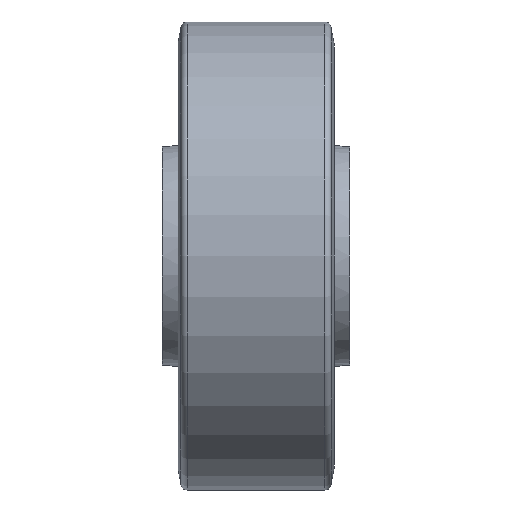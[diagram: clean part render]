
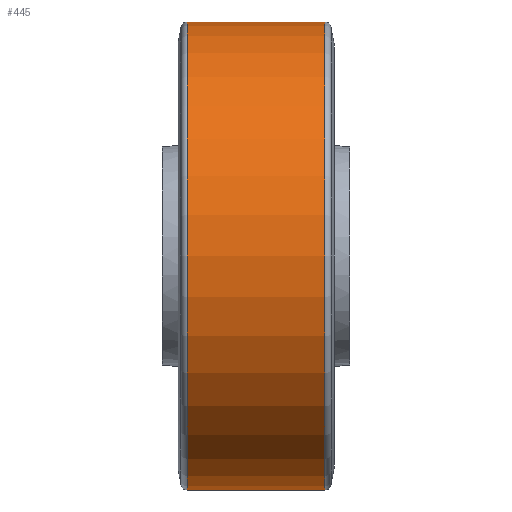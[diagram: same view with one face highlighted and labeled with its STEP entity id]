
A CAD part, front view. The second image highlights one B-rep face of the part: STEP entity #445.
In plain terms, the highlighted cylindrical face has radius 75 mm (diameter 150 mm), a partial arc.
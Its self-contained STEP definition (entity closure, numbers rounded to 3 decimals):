
#78 = DIRECTION ( 'NONE',  ( 0., 0., 1. ) ) ;
#100 = EDGE_CURVE ( 'NONE', #745, #1059, #364, .T. ) ;
#219 = CARTESIAN_POINT ( 'NONE',  ( 0., 0., 75. ) ) ;
#310 = CARTESIAN_POINT ( 'NONE',  ( 0., 0., -75. ) ) ;
#364 = CIRCLE ( 'NONE', #1453, 75. ) ;
#445 = ADVANCED_FACE ( 'NONE', ( #454 ), #1217, .T. ) ;
#448 = ORIENTED_EDGE ( 'NONE', *, *, #607, .F. ) ;
#454 = FACE_OUTER_BOUND ( 'NONE', #788, .T. ) ;
#494 = CARTESIAN_POINT ( 'NONE',  ( -22.088, 0., 75. ) ) ;
#542 = CARTESIAN_POINT ( 'NONE',  ( 0., 0., 0. ) ) ;
#580 = ORIENTED_EDGE ( 'NONE', *, *, #1477, .F. ) ;
#607 = EDGE_CURVE ( 'NONE', #636, #858, #617, .T. ) ;
#617 = CIRCLE ( 'NONE', #1182, 75. ) ;
#636 = VERTEX_POINT ( 'NONE', #1464 ) ;
#662 = DIRECTION ( 'NONE',  ( -1., 0., 0. ) ) ;
#670 = LINE ( 'NONE', #310, #984 ) ;
#701 = LINE ( 'NONE', #219, #773 ) ;
#745 = VERTEX_POINT ( 'NONE', #1185 ) ;
#773 = VECTOR ( 'NONE', #936, 1000. ) ;
#788 = EDGE_LOOP ( 'NONE', ( #580, #985, #1172, #448 ) ) ;
#858 = VERTEX_POINT ( 'NONE', #494 ) ;
#859 = CARTESIAN_POINT ( 'NONE',  ( 22.088, 0., 75. ) ) ;
#936 = DIRECTION ( 'NONE',  ( -1., 0., 0. ) ) ;
#984 = VECTOR ( 'NONE', #662, 1000. ) ;
#985 = ORIENTED_EDGE ( 'NONE', *, *, #100, .T. ) ;
#1059 = VERTEX_POINT ( 'NONE', #859 ) ;
#1133 = DIRECTION ( 'NONE',  ( 0., 0., 1. ) ) ;
#1150 = DIRECTION ( 'NONE',  ( 0., 0., 1. ) ) ;
#1172 = ORIENTED_EDGE ( 'NONE', *, *, #1392, .T. ) ;
#1182 = AXIS2_PLACEMENT_3D ( 'NONE', #1248, #1403, #1133 ) ;
#1185 = CARTESIAN_POINT ( 'NONE',  ( 22.088, 0., -75. ) ) ;
#1217 = CYLINDRICAL_SURFACE ( 'NONE', #1349, 75. ) ;
#1248 = CARTESIAN_POINT ( 'NONE',  ( -22.088, 0., 0. ) ) ;
#1346 = CARTESIAN_POINT ( 'NONE',  ( 22.088, 0., 0. ) ) ;
#1349 = AXIS2_PLACEMENT_3D ( 'NONE', #542, #1466, #1150 ) ;
#1359 = DIRECTION ( 'NONE',  ( -1., 0., 0. ) ) ;
#1392 = EDGE_CURVE ( 'NONE', #1059, #858, #701, .T. ) ;
#1403 = DIRECTION ( 'NONE',  ( -1., 0., 0. ) ) ;
#1453 = AXIS2_PLACEMENT_3D ( 'NONE', #1346, #1359, #78 ) ;
#1464 = CARTESIAN_POINT ( 'NONE',  ( -22.088, 0., -75. ) ) ;
#1466 = DIRECTION ( 'NONE',  ( -1., 0., 0. ) ) ;
#1477 = EDGE_CURVE ( 'NONE', #745, #636, #670, .T. ) ;
